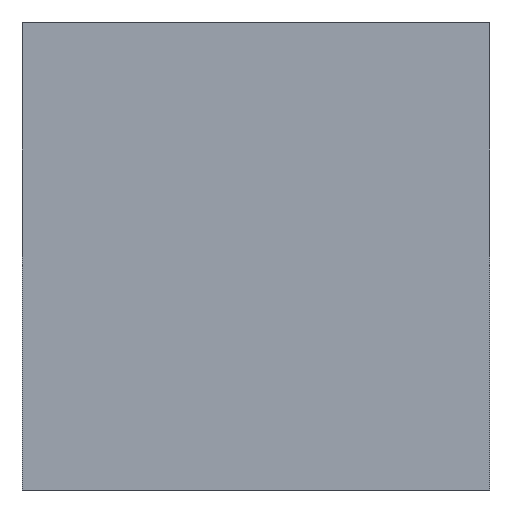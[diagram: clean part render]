
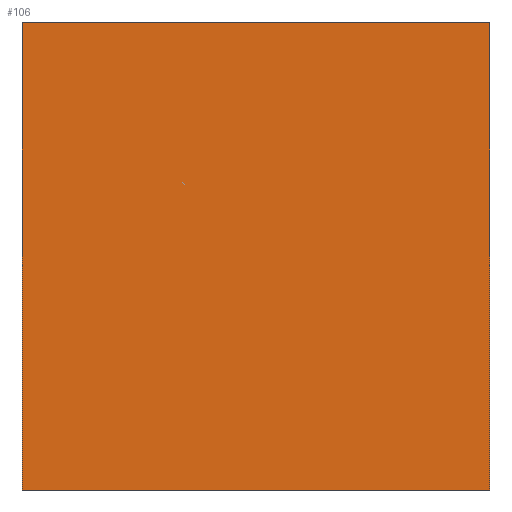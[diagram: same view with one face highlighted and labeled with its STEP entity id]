
A CAD part, front view. The second image highlights one B-rep face of the part: STEP entity #106.
In plain terms, the highlighted planar face has unit normal (0, -1, 0).
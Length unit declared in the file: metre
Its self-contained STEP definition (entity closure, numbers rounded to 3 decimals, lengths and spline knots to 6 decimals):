
#20=ORIENTED_EDGE('',*,*,#37,.T.);
#21=ORIENTED_EDGE('',*,*,#44,.F.);
#22=ORIENTED_EDGE('',*,*,#43,.F.);
#23=ORIENTED_EDGE('',*,*,#45,.T.);
#37=EDGE_CURVE('',#50,#48,#57,.T.);
#43=EDGE_CURVE('',#55,#52,#63,.T.);
#44=EDGE_CURVE('',#52,#48,#64,.T.);
#45=EDGE_CURVE('',#55,#50,#65,.T.);
#48=VERTEX_POINT('',#195);
#50=VERTEX_POINT('',#198);
#52=VERTEX_POINT('',#204);
#55=VERTEX_POINT('',#209);
#57=LINE('',#197,#69);
#63=LINE('',#210,#75);
#64=LINE('',#212,#76);
#65=LINE('',#213,#77);
#69=VECTOR('',#171,1.);
#75=VECTOR('',#179,1.);
#76=VECTOR('',#182,1.);
#77=VECTOR('',#183,1.);
#82=EDGE_LOOP('',(#20,#21,#22,#23));
#88=FACE_BOUND('',#82,.T.);
#94=PLANE('',#162);
#106=ADVANCED_FACE('',(#88),#94,.F.);
#162=AXIS2_PLACEMENT_3D('',#211,#180,#181);
#171=DIRECTION('',(1.,0.,0.));
#179=DIRECTION('',(1.,0.,0.));
#180=DIRECTION('',(0.,1.,0.));
#181=DIRECTION('',(-1.,0.,0.));
#182=DIRECTION('',(0.,0.,-1.));
#183=DIRECTION('',(0.,0.,-1.));
#195=CARTESIAN_POINT('',(0.00615,0.0092,0.0005));
#197=CARTESIAN_POINT('',(0.00585,0.0092,0.0005));
#198=CARTESIAN_POINT('',(0.00585,0.0092,0.0005));
#204=CARTESIAN_POINT('',(0.00615,0.0092,0.0008));
#209=CARTESIAN_POINT('',(0.00585,0.0092,0.0008));
#210=CARTESIAN_POINT('',(0.00585,0.0092,0.0008));
#211=CARTESIAN_POINT('',(0.00585,0.0092,0.0008));
#212=CARTESIAN_POINT('',(0.00615,0.0092,0.0008));
#213=CARTESIAN_POINT('',(0.00585,0.0092,0.0008));
